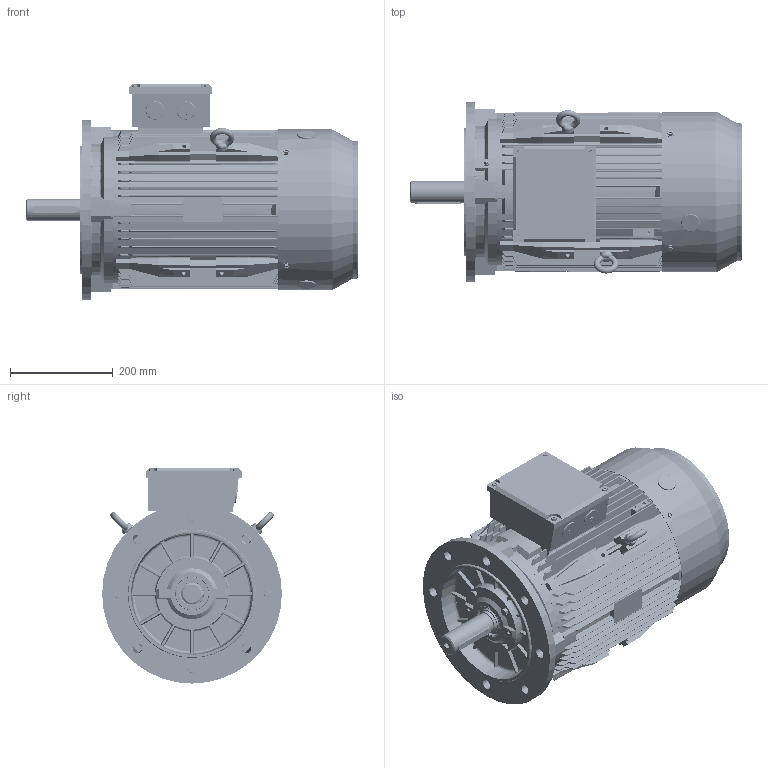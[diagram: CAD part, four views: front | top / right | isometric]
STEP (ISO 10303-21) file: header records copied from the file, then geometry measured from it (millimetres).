
FILE_DESCRIPTION (( 'STEP AP214' ), '1' );
FILE_NAME ('BCT4110.16H605.11.step', '2020-04-23T14:59:57', ( '' ), ( '' ), 'SwSTEP 2.0', 'SolidWorks 2019', '' );
FILE_SCHEMA (( 'AUTOMOTIVE_DESIGN' ));
Length unit declared in the file: millimetre
Products named in the file (1): BCT4110.16H605.11
Bounding box: 646.5 x 350 x 419 mm (x, y, z)
Volume: 9469355.9 mm3; surface area: 2868852.3 mm2
Topology: 51 solids, 52 shells, 6820 faces, 19512 edges, 12745 vertices
Faces by surface type: plane 3214, cylinder 2514, cone 458, torus 414, bspline 116, sphere 104
Entity records: 266002 total; most frequent: CARTESIAN_POINT 86072, ORIENTED_EDGE 38596, DIRECTION 36466, EDGE_CURVE 19298, AXIS2_PLACEMENT_3D 12872, VERTEX_POINT 12693, LINE 10722, VECTOR 10722
